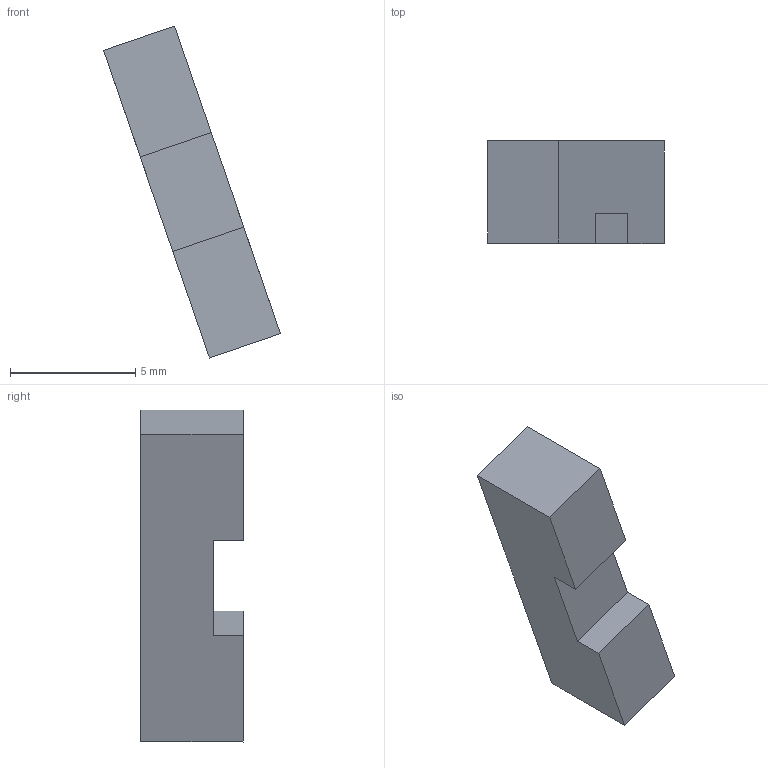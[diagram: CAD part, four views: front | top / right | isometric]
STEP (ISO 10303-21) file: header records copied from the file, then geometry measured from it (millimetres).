
FILE_DESCRIPTION(('STEP AP214'),'1');
FILE_NAME('tmp0.STEP','2026-06-08T18:27:27',(' '),(' '),'Spatial InterOp 3D',' ',' ');
FILE_SCHEMA(('AUTOMOTIVE_DESIGN { 1 0 10303 214 1 1 1 1 }'));
Length unit declared in the file: millimetre
Products named in the file (1): 1
Bounding box: 7.06 x 4.1 x 13.26 mm (x, y, z)
Volume: 145.4 mm3; surface area: 206.7 mm2
Topology: 1 solids, 1 shells, 10 faces, 24 edges, 16 vertices
Faces by surface type: plane 10
Entity records: 313 total; most frequent: CARTESIAN_POINT 51, ORIENTED_EDGE 48, DIRECTION 46, EDGE_CURVE 24, LINE 24, VECTOR 24, VERTEX_POINT 16, AXIS2_PLACEMENT_3D 11
